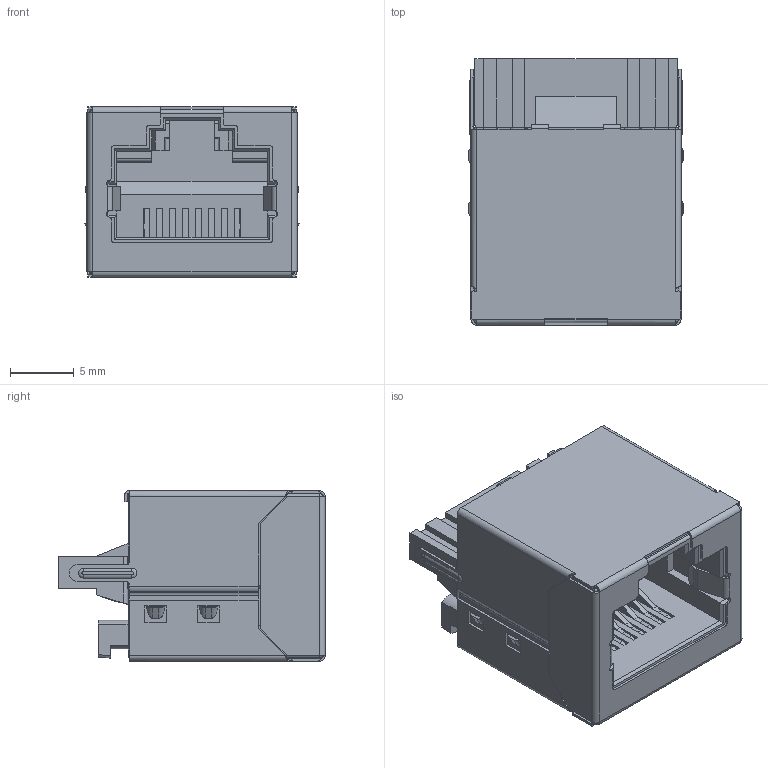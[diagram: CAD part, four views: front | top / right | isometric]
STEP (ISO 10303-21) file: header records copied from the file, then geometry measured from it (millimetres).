
FILE_DESCRIPTION(/* description */ (''),/* implementation_level */ '2;1');
FILE_NAME(/* name */ 'TM52W811EX002212111000.stp',/* time_stamp */ '2020-06-17T14:26:20+08:00',/* author */ (''),/* organization */ (''),/* preprocessor_version */ 'ST-DEVELOPER v16',/* originating_system */ 'SIEMENS PLM Software NX 10.0',/* authorisation */ '');
FILE_SCHEMA (('CONFIG_CONTROL_DESIGN'));
Length unit declared in the file: millimetre
Products named in the file (1): _model1
Bounding box: 16.88 x 20.95 x 13.4 mm (x, y, z)
Volume: 2330.2 mm3; surface area: 5643.1 mm2
Topology: 19 solids, 19 shells, 1549 faces, 4334 edges, 2794 vertices
Faces by surface type: plane 981, cylinder 409, bspline 156, cone 2, extrusion 1
Entity records: 53510 total; most frequent: CARTESIAN_POINT 14123, ORIENTED_EDGE 8692, DIRECTION 7554, EDGE_CURVE 4346, VECTOR 3258, LINE 3257, VERTEX_POINT 2810, AXIS2_PLACEMENT_3D 2148
